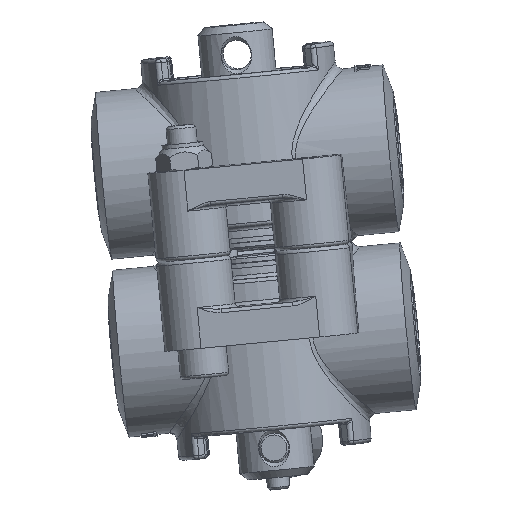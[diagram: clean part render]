
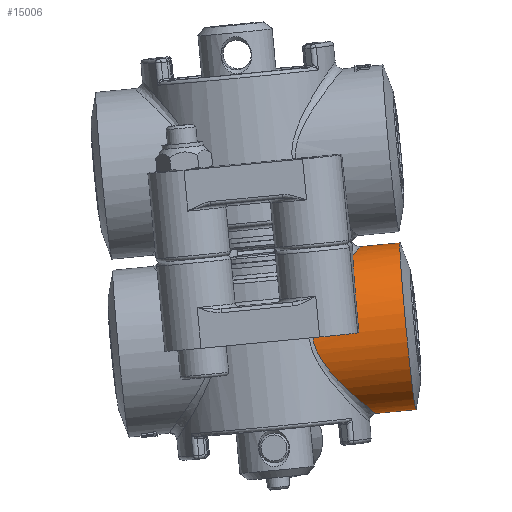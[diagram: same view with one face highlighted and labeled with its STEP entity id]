
A CAD part, front view. The second image highlights one B-rep face of the part: STEP entity #15006.
In plain terms, the highlighted cylindrical face has radius 22.5 mm (diameter 45 mm), a full revolution.
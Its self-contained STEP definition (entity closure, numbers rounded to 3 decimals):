
#14924=CARTESIAN_POINT('',(43.206,60.624,-10.516));
#14925=DIRECTION('',(0.995,-0.026,0.095));
#14926=DIRECTION('',(0.024,1.,0.016));
#14927=AXIS2_PLACEMENT_3D('',#14924,#14925,#14926);
#14928=CYLINDRICAL_SURFACE('',#14927,22.5);
#14929=CARTESIAN_POINT('',(66.902,50.142,12.087));
#14930=VERTEX_POINT('',#14929);
#14931=CARTESIAN_POINT('',(62.086,78.112,4.845));
#14932=VERTEX_POINT('',#14931);
#14933=CARTESIAN_POINT('',(66.902,50.142,12.087));
#14934=CARTESIAN_POINT('',(67.452,51.45,12.784));
#14935=CARTESIAN_POINT('',(68.088,53.382,13.572));
#14936=CARTESIAN_POINT('',(68.677,56.375,14.28));
#14937=CARTESIAN_POINT('',(69.189,61.024,14.857));
#14938=CARTESIAN_POINT('',(68.423,66.732,13.809));
#14939=CARTESIAN_POINT('',(66.418,71.71,11.11));
#14940=CARTESIAN_POINT('',(64.486,75.156,8.435));
#14941=CARTESIAN_POINT('',(63.004,77.078,6.282));
#14942=CARTESIAN_POINT('',(62.086,78.112,4.845));
#14943=B_SPLINE_CURVE_WITH_KNOTS('',3,(#14933,#14934,#14935,#14936,#14937,#14938,#14939,#14940,#14941,#14942),.UNSPECIFIED.,.F.,.U.,(4,1,1,1,1,1,1,4),(-20.144,-19.635,-19.444,-19.126,-18.108,-17.599,-17.217,-16.58),.UNSPECIFIED.);
#14944=EDGE_CURVE('',#14930,#14932,#14943,.T.);
#14945=ORIENTED_EDGE('',*,*,#14944,.F.);
#14946=CARTESIAN_POINT('',(68.531,37.464,-8.399));
#14947=VERTEX_POINT('',#14946);
#14948=CARTESIAN_POINT('',(69.079,59.955,-8.044));
#14949=DIRECTION('',(0.995,-0.026,0.095));
#14950=DIRECTION('',(0.024,1.,0.016));
#14951=AXIS2_PLACEMENT_3D('',#14948,#14949,#14950);
#14952=CIRCLE('',#14951,22.5);
#14953=EDGE_CURVE('',#14930,#14947,#14952,.T.);
#14954=ORIENTED_EDGE('',*,*,#14953,.T.);
#14955=CARTESIAN_POINT('',(56.147,37.785,-9.582));
#14956=VERTEX_POINT('',#14955);
#14957=CARTESIAN_POINT('',(68.531,37.464,-8.399));
#14958=DIRECTION('',(-0.995,0.026,-0.095));
#14959=VECTOR('',#14958,12.445);
#14960=LINE('',#14957,#14959);
#14961=EDGE_CURVE('',#14947,#14956,#14960,.T.);
#14962=ORIENTED_EDGE('',*,*,#14961,.T.);
#14963=CARTESIAN_POINT('',(64.616,78.467,-21.537));
#14964=VERTEX_POINT('',#14963);
#14965=CARTESIAN_POINT('',(64.616,78.467,-21.537));
#14966=CARTESIAN_POINT('',(65.489,77.727,-22.475));
#14967=CARTESIAN_POINT('',(67.228,76.057,-24.255));
#14968=CARTESIAN_POINT('',(69.58,73.04,-26.553));
#14969=CARTESIAN_POINT('',(71.503,69.505,-28.409));
#14970=CARTESIAN_POINT('',(73.292,64.145,-30.171));
#14971=CARTESIAN_POINT('',(73.408,58.688,-30.471));
#14972=CARTESIAN_POINT('',(71.999,53.111,-29.451));
#14973=CARTESIAN_POINT('',(69.595,48.002,-27.53));
#14974=CARTESIAN_POINT('',(65.046,42.81,-23.53));
#14975=CARTESIAN_POINT('',(60.282,39.617,-18.632));
#14976=CARTESIAN_POINT('',(57.151,38.118,-13.831));
#14977=CARTESIAN_POINT('',(56.285,37.804,-11.021));
#14978=CARTESIAN_POINT('',(56.147,37.785,-9.582));
#14979=B_SPLINE_CURVE_WITH_KNOTS('',3,(#14965,#14966,#14967,#14968,#14969,#14970,#14971,#14972,#14973,#14974,#14975,#14976,#14977,#14978),.UNSPECIFIED.,.F.,.U.,(4,1,1,1,1,1,1,1,1,1,1,4),(16.578,17.05,17.522,17.994,18.466,19.41,19.725,20.355,21.299,22.243,22.715,23.187),.UNSPECIFIED.);
#14980=EDGE_CURVE('',#14964,#14956,#14979,.T.);
#14981=ORIENTED_EDGE('',*,*,#14980,.F.);
#14982=CARTESIAN_POINT('',(62.086,78.112,4.845));
#14983=CARTESIAN_POINT('',(62.985,78.831,3.94));
#14984=CARTESIAN_POINT('',(64.655,80.143,1.951));
#14985=CARTESIAN_POINT('',(67.361,82.161,-2.829));
#14986=CARTESIAN_POINT('',(68.551,82.796,-8.551));
#14987=CARTESIAN_POINT('',(67.709,81.568,-15.644));
#14988=CARTESIAN_POINT('',(66.032,79.848,-19.385));
#14989=CARTESIAN_POINT('',(64.616,78.467,-21.537));
#14990=B_SPLINE_CURVE_WITH_KNOTS('',3,(#14982,#14983,#14984,#14985,#14986,#14987,#14988,#14989),.UNSPECIFIED.,.F.,.U.,(4,1,1,1,1,4),(-6.289,-5.824,-5.359,-4.43,-3.966,-3.036),.UNSPECIFIED.);
#14991=EDGE_CURVE('',#14932,#14964,#14990,.T.);
#14992=ORIENTED_EDGE('',*,*,#14991,.F.);
#14993=EDGE_LOOP('',(#14945,#14954,#14962,#14981,#14992));
#14994=FACE_OUTER_BOUND('',#14993,.T.);
#14995=CARTESIAN_POINT('',(81.192,37.137,-7.189));
#14996=VERTEX_POINT('',#14995);
#14997=CARTESIAN_POINT('',(81.74,59.627,-6.834));
#14998=DIRECTION('',(0.995,-0.026,0.095));
#14999=DIRECTION('',(0.024,1.,0.016));
#15000=AXIS2_PLACEMENT_3D('',#14997,#14998,#14999);
#15001=CIRCLE('',#15000,22.5);
#15002=EDGE_CURVE('',#14996,#14996,#15001,.T.);
#15003=ORIENTED_EDGE('',*,*,#15002,.F.);
#15004=EDGE_LOOP('',(#15003));
#15005=FACE_BOUND('',#15004,.T.);
#15006=ADVANCED_FACE('',(#14994,#15005),#14928,.T.);
